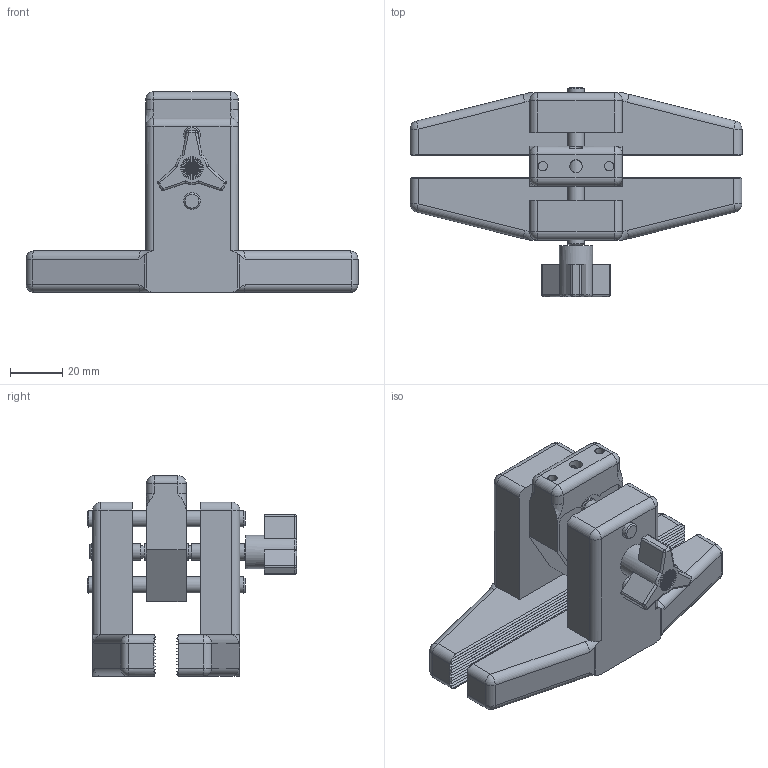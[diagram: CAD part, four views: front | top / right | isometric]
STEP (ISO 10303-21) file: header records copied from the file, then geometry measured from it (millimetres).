
FILE_DESCRIPTION((''),'2;1');
FILE_NAME('F:\CAD files\Itr\3D MARKETING MODELS\GRIPS\G1015-2\G1015-2.stp','2017-04-19T13:25:25',('mlampen'),(''),'Autodesk Inventor 2010','Autodesk Inventor 2010','');
FILE_SCHEMA(('AUTOMOTIVE_DESIGN { 1 0 10303 214 1 1 1 1 }'));
Length unit declared in the file: inch
Products named in the file (6): Assembly1; Part2; Part4; Part6; Part8; Part10
Assembly tree (5 placements, depth 2):
  Assembly1
    Part2
    Part4
    Part6
    Part8
    Part10
Bounding box: 127 x 80.04 x 76.83 mm (x, y, z)
Volume: 156532.8 mm3; surface area: 47891.1 mm2
Topology: 10 solids, 16 shells, 685 faces, 2048 edges, 1438 vertices
Faces by surface type: plane 327, cylinder 237, cone 48, bspline 40, sphere 22, torus 11
Full cylindrical faces by diameter (mm): 0.127 x1, 0.381 x1, 0.635 x1, 0.889 x1, 1.041 x12, 1.143 x1, 1.397 x1, 1.651 x1, 1.905 x1, 2.159 x1, 2.413 x1, 2.667 x1, 2.921 x1, 3.175 x1, 3.429 x1, 3.505 x21, 3.683 x1, 3.81 x5, 3.937 x1, 4.191 x1, 4.445 x1, 4.699 x1, 4.75 x2, 4.763 x2, 4.775 x2, 4.826 x5, 4.953 x1, 5.207 x1, 5.461 x1, 5.715 x1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
Entity records: 37336 total; most frequent: CARTESIAN_POINT 20714, ORIENTED_EDGE 3656, DIRECTION 3055, EDGE_CURVE 1828, VERTEX_POINT 1392, AXIS2_PLACEMENT_3D 1219, EDGE_LOOP 930, FACE_OUTER_BOUND 667
